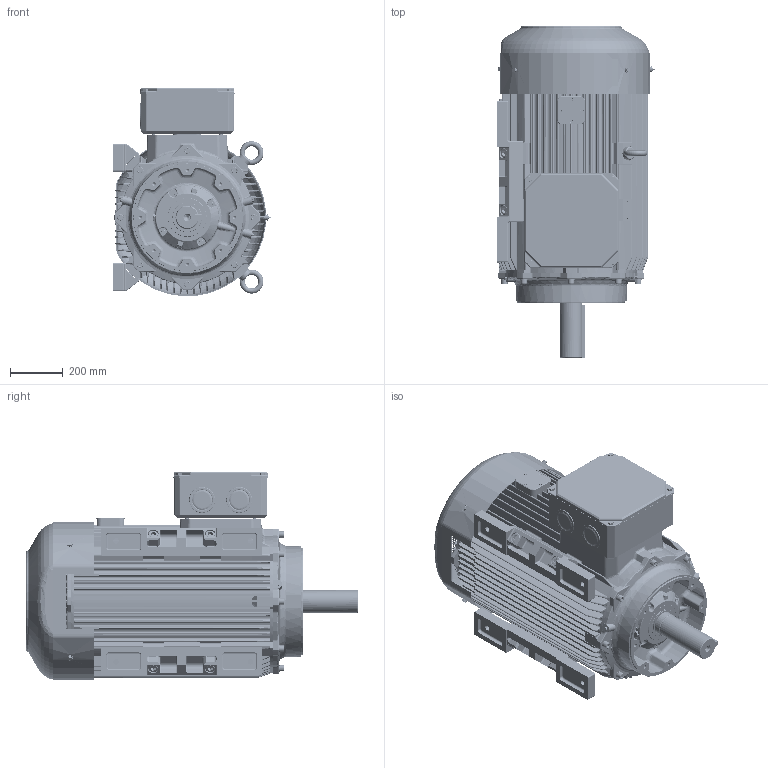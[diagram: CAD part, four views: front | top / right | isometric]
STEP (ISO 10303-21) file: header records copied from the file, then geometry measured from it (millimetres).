
FILE_DESCRIPTION(/* description */ ('Unknown','CAx-IF Rec.Pracs.---Representation and Presentation of Product Manufacturing Information (PMI)---4.0---2014-10-13','CAx-IF Rec.Pracs.---3D Tessellated Geometry---0.4---2014-09-14','2;1'),/* implementation_level */ '2;1');
FILE_NAME(/* name */ 'Silnik SIE447TCL4A',/* time_stamp */ '2024-07-08T09:52:24+02:00',/* author */ ('Unknown'),/* organization */ ('Unknown'),/* preprocessor_version */ 'ST-DEVELOPER v16.7',/* originating_system */ 'DEX',/* authorisation */ $);
FILE_SCHEMA (('AP242_MANAGED_MODEL_BASED_3D_ENGINEERING_MIM_LF { 1 0 10303 442 20130219 1 4 }'));
Products named in the file (1): Silnik SIE447TCL4A
Bounding box: 594.9 x 1253.96 x 787.58 mm (x, y, z)
Volume: 159026286.5 mm3; surface area: 12267003.7 mm2
Topology: 1 solids, 62 shells, 11015 faces, 28976 edges, 18103 vertices
Faces by surface type: plane 6088, cylinder 2281, bspline 1000, torus 848, cone 501, sphere 297
Full cylindrical faces by diameter (mm): 0.25 x1, 1.6 x2, 2.5 x3, 3 x1, 3.5 x4, 4.2 x2, 4.917 x2, 5 x17, 6 x3, 6.2 x14, 6.466 x8, 6.6 x4, 6.647 x12, 8 x22, 8.376 x6, 8.4 x1, 8.5 x4, 8.8 x1, 8.917 x4, 9 x12, 9.853 x4, 10 x12, 10.106 x8, 10.5 x4, 12 x12, 13 x8, 13.376 x8, 13.546 x8, 13.835 x9, 14 x15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
Entity records: 455286 total; most frequent: CARTESIAN_POINT 115068, ORIENTED_EDGE 54884, DIRECTION 51559, EDGE_CURVE 27442, VERTEX_POINT 17648, AXIS2_PLACEMENT_3D 17280, LINE 16999, VECTOR 16999
